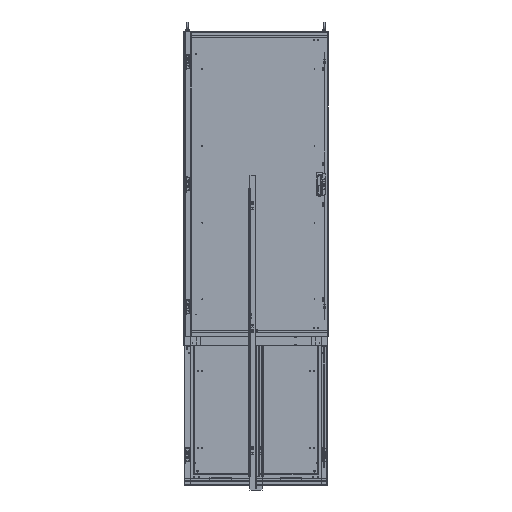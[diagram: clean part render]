
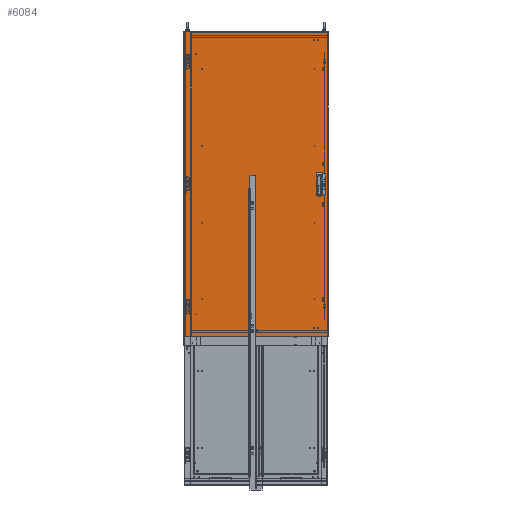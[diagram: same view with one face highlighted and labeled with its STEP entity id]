
A CAD part, front view. The second image highlights one B-rep face of the part: STEP entity #6084.
In plain terms, the highlighted planar face has unit normal (0, -1, 0).
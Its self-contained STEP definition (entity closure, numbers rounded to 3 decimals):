
#6084 = ADVANCED_FACE( '', ( #9675, #9676, #9677, #9678, #9679, #9680 ), #9681, .T. );
#9675 = FACE_BOUND( '', #14800, .T. );
#9676 = FACE_BOUND( '', #14801, .T. );
#9677 = FACE_BOUND( '', #14802, .T. );
#9678 = FACE_OUTER_BOUND( '', #14803, .T. );
#9679 = FACE_BOUND( '', #14804, .T. );
#9680 = FACE_BOUND( '', #14805, .T. );
#9681 = PLANE( '', #14806 );
#14800 = EDGE_LOOP( '', ( #27919, #27920, #27921, #27922 ) );
#14801 = EDGE_LOOP( '', ( #27923 ) );
#14802 = EDGE_LOOP( '', ( #27924, #27925, #27926, #27927 ) );
#14803 = EDGE_LOOP( '', ( #27928, #27929, #27930, #27931 ) );
#14804 = EDGE_LOOP( '', ( #27932, #27933, #27934, #27935 ) );
#14805 = EDGE_LOOP( '', ( #27936 ) );
#14806 = AXIS2_PLACEMENT_3D( '', #27937, #27938, #27939 );
#27919 = ORIENTED_EDGE( '', *, *, #39735, .F. );
#27920 = ORIENTED_EDGE( '', *, *, #39736, .F. );
#27921 = ORIENTED_EDGE( '', *, *, #39737, .F. );
#27922 = ORIENTED_EDGE( '', *, *, #39738, .F. );
#27923 = ORIENTED_EDGE( '', *, *, #39739, .T. );
#27924 = ORIENTED_EDGE( '', *, *, #39740, .F. );
#27925 = ORIENTED_EDGE( '', *, *, #39741, .F. );
#27926 = ORIENTED_EDGE( '', *, *, #39742, .F. );
#27927 = ORIENTED_EDGE( '', *, *, #39743, .F. );
#27928 = ORIENTED_EDGE( '', *, *, #39744, .T. );
#27929 = ORIENTED_EDGE( '', *, *, #39745, .F. );
#27930 = ORIENTED_EDGE( '', *, *, #39746, .F. );
#27931 = ORIENTED_EDGE( '', *, *, #39747, .F. );
#27932 = ORIENTED_EDGE( '', *, *, #39748, .T. );
#27933 = ORIENTED_EDGE( '', *, *, #39749, .T. );
#27934 = ORIENTED_EDGE( '', *, *, #39750, .T. );
#27935 = ORIENTED_EDGE( '', *, *, #39751, .T. );
#27936 = ORIENTED_EDGE( '', *, *, #39752, .T. );
#27937 = CARTESIAN_POINT( '', ( -497.65, 0., -1059.656 ) );
#27938 = DIRECTION( '', ( 0., -1., 0. ) );
#27939 = DIRECTION( '', ( 0., 0., -1. ) );
#39735 = EDGE_CURVE( '', #46800, #46801, #46802, .T. );
#39736 = EDGE_CURVE( '', #46803, #46800, #46804, .T. );
#39737 = EDGE_CURVE( '', #46805, #46803, #46806, .T. );
#39738 = EDGE_CURVE( '', #46801, #46805, #46807, .T. );
#39739 = EDGE_CURVE( '', #46808, #46808, #46809, .T. );
#39740 = EDGE_CURVE( '', #46810, #46811, #46812, .T. );
#39741 = EDGE_CURVE( '', #46813, #46810, #46814, .T. );
#39742 = EDGE_CURVE( '', #46815, #46813, #46816, .T. );
#39743 = EDGE_CURVE( '', #46811, #46815, #46817, .T. );
#39744 = EDGE_CURVE( '', #46818, #46819, #46820, .T. );
#39745 = EDGE_CURVE( '', #46821, #46819, #46822, .T. );
#39746 = EDGE_CURVE( '', #46823, #46821, #46824, .T. );
#39747 = EDGE_CURVE( '', #46818, #46823, #46825, .T. );
#39748 = EDGE_CURVE( '', #46826, #46827, #46828, .T. );
#39749 = EDGE_CURVE( '', #46827, #46829, #46830, .T. );
#39750 = EDGE_CURVE( '', #46829, #46831, #46832, .T. );
#39751 = EDGE_CURVE( '', #46831, #46826, #46833, .T. );
#39752 = EDGE_CURVE( '', #46834, #46834, #46835, .T. );
#46800 = VERTEX_POINT( '', #57880 );
#46801 = VERTEX_POINT( '', #57881 );
#46802 = LINE( '', #57882, #57883 );
#46803 = VERTEX_POINT( '', #57884 );
#46804 = LINE( '', #57885, #57886 );
#46805 = VERTEX_POINT( '', #57887 );
#46806 = LINE( '', #57888, #57889 );
#46807 = LINE( '', #57890, #57891 );
#46808 = VERTEX_POINT( '', #57892 );
#46809 = CIRCLE( '', #57893, 4.013 );
#46810 = VERTEX_POINT( '', #57894 );
#46811 = VERTEX_POINT( '', #57895 );
#46812 = LINE( '', #57896, #57897 );
#46813 = VERTEX_POINT( '', #57898 );
#46814 = LINE( '', #57899, #57900 );
#46815 = VERTEX_POINT( '', #57901 );
#46816 = LINE( '', #57902, #57903 );
#46817 = LINE( '', #57904, #57905 );
#46818 = VERTEX_POINT( '', #57906 );
#46819 = VERTEX_POINT( '', #57907 );
#46820 = LINE( '', #57908, #57909 );
#46821 = VERTEX_POINT( '', #57910 );
#46822 = LINE( '', #57911, #57912 );
#46823 = VERTEX_POINT( '', #57913 );
#46824 = LINE( '', #57914, #57915 );
#46825 = LINE( '', #57916, #57917 );
#46826 = VERTEX_POINT( '', #57918 );
#46827 = VERTEX_POINT( '', #57919 );
#46828 = LINE( '', #57920, #57921 );
#46829 = VERTEX_POINT( '', #57922 );
#46830 = LINE( '', #57923, #57924 );
#46831 = VERTEX_POINT( '', #57925 );
#46832 = LINE( '', #57926, #57927 );
#46833 = LINE( '', #57928, #57929 );
#46834 = VERTEX_POINT( '', #57930 );
#46835 = CIRCLE( '', #57931, 4.013 );
#57880 = CARTESIAN_POINT( '', ( -450.132, 0., 75.006 ) );
#57881 = CARTESIAN_POINT( '', ( -450.132, 0., 24.994 ) );
#57882 = CARTESIAN_POINT( '', ( -450.132, 0., 75.006 ) );
#57883 = VECTOR( '', #71061, 1000. );
#57884 = CARTESIAN_POINT( '', ( -425.138, 0., 75.006 ) );
#57885 = CARTESIAN_POINT( '', ( -425.138, 0., 75.006 ) );
#57886 = VECTOR( '', #71062, 1000. );
#57887 = CARTESIAN_POINT( '', ( -425.138, 0., 24.994 ) );
#57888 = CARTESIAN_POINT( '', ( -425.138, 0., 24.994 ) );
#57889 = VECTOR( '', #71063, 1000. );
#57890 = CARTESIAN_POINT( '', ( -450.132, 0., 24.994 ) );
#57891 = VECTOR( '', #71064, 1000. );
#57892 = CARTESIAN_POINT( '', ( -469.613, 0., 35.001 ) );
#57893 = AXIS2_PLACEMENT_3D( '', #71065, #71066, #71067 );
#57894 = CARTESIAN_POINT( '', ( -474.147, 0., 15.875 ) );
#57895 = CARTESIAN_POINT( '', ( -474.147, 0., -15.875 ) );
#57896 = CARTESIAN_POINT( '', ( -474.147, 0., 15.875 ) );
#57897 = VECTOR( '', #71068, 1000. );
#57898 = CARTESIAN_POINT( '', ( -469.143, 0., 15.875 ) );
#57899 = CARTESIAN_POINT( '', ( -469.143, 0., 15.875 ) );
#57900 = VECTOR( '', #71069, 1000. );
#57901 = CARTESIAN_POINT( '', ( -469.143, 0., -15.875 ) );
#57902 = CARTESIAN_POINT( '', ( -469.143, 0., -15.875 ) );
#57903 = VECTOR( '', #71070, 1000. );
#57904 = CARTESIAN_POINT( '', ( -474.147, 0., -15.875 ) );
#57905 = VECTOR( '', #71071, 1000. );
#57906 = CARTESIAN_POINT( '', ( 494.906, 0., 1056.913 ) );
#57907 = CARTESIAN_POINT( '', ( -494.906, 0., 1056.913 ) );
#57908 = CARTESIAN_POINT( '', ( 494.906, 0., 1056.913 ) );
#57909 = VECTOR( '', #71072, 1000. );
#57910 = CARTESIAN_POINT( '', ( -494.906, 0., -1056.913 ) );
#57911 = CARTESIAN_POINT( '', ( -494.906, 0., -1056.913 ) );
#57912 = VECTOR( '', #71073, 1000. );
#57913 = CARTESIAN_POINT( '', ( 494.906, 0., -1056.913 ) );
#57914 = CARTESIAN_POINT( '', ( 494.906, 0., -1056.913 ) );
#57915 = VECTOR( '', #71074, 1000. );
#57916 = CARTESIAN_POINT( '', ( 494.906, 0., 1056.913 ) );
#57917 = VECTOR( '', #71075, 1000. );
#57918 = CARTESIAN_POINT( '', ( -450.132, 0., -25.019 ) );
#57919 = CARTESIAN_POINT( '', ( -425.138, 0., -25.019 ) );
#57920 = CARTESIAN_POINT( '', ( -450.132, 0., -25.019 ) );
#57921 = VECTOR( '', #71076, 1000. );
#57922 = CARTESIAN_POINT( '', ( -425.138, 0., -75.032 ) );
#57923 = CARTESIAN_POINT( '', ( -425.138, 0., -25.019 ) );
#57924 = VECTOR( '', #71077, 1000. );
#57925 = CARTESIAN_POINT( '', ( -450.132, 0., -75.032 ) );
#57926 = CARTESIAN_POINT( '', ( -425.138, 0., -75.032 ) );
#57927 = VECTOR( '', #71078, 1000. );
#57928 = CARTESIAN_POINT( '', ( -450.132, 0., -75.032 ) );
#57929 = VECTOR( '', #71079, 1000. );
#57930 = CARTESIAN_POINT( '', ( -469.613, 0., -35.001 ) );
#57931 = AXIS2_PLACEMENT_3D( '', #71080, #71081, #71082 );
#71061 = DIRECTION( '', ( 0., 0., -1. ) );
#71062 = DIRECTION( '', ( -1., 0., 0. ) );
#71063 = DIRECTION( '', ( 0., 0., 1. ) );
#71064 = DIRECTION( '', ( 1., 0., 0. ) );
#71065 = CARTESIAN_POINT( '', ( -473.627, 0., 35.001 ) );
#71066 = DIRECTION( '', ( 0., 1., 0. ) );
#71067 = DIRECTION( '', ( 1., 0., 0. ) );
#71068 = DIRECTION( '', ( 0., 0., -1. ) );
#71069 = DIRECTION( '', ( -1., 0., 0. ) );
#71070 = DIRECTION( '', ( 0., 0., 1. ) );
#71071 = DIRECTION( '', ( 1., 0., 0. ) );
#71072 = DIRECTION( '', ( -1., 0., 0. ) );
#71073 = DIRECTION( '', ( 0., 0., 1. ) );
#71074 = DIRECTION( '', ( -1., 0., 0. ) );
#71075 = DIRECTION( '', ( 0., 0., -1. ) );
#71076 = DIRECTION( '', ( 1., 0., 0. ) );
#71077 = DIRECTION( '', ( 0., 0., -1. ) );
#71078 = DIRECTION( '', ( -1., 0., 0. ) );
#71079 = DIRECTION( '', ( 0., 0., 1. ) );
#71080 = CARTESIAN_POINT( '', ( -473.627, 0., -35.001 ) );
#71081 = DIRECTION( '', ( 0., 1., 0. ) );
#71082 = DIRECTION( '', ( 1., 0., 0. ) );
